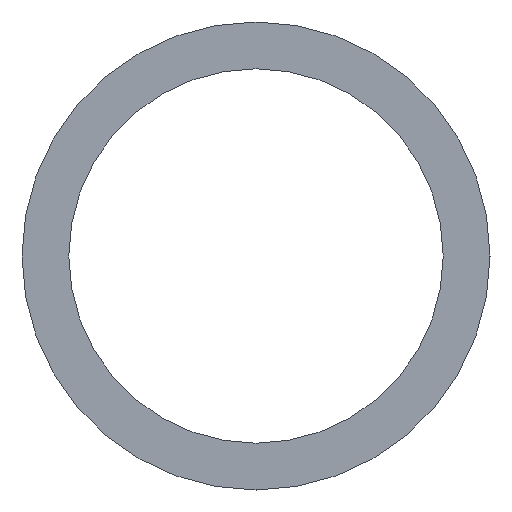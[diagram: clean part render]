
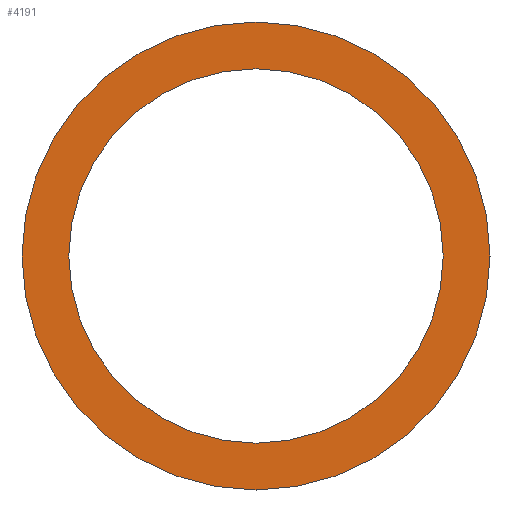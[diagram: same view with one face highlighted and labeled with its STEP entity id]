
A CAD part, front view. The second image highlights one B-rep face of the part: STEP entity #4191.
In plain terms, the highlighted planar face has unit normal (0, -1, 0).
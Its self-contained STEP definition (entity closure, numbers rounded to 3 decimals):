
#58 = DIRECTION ( 'NONE',  ( 0., 1., 0. ) ) ;
#157 = CIRCLE ( 'NONE', #182, 237.5 ) ;
#182 = AXIS2_PLACEMENT_3D ( 'NONE', #1542, #1679, #3466 ) ;
#295 = CARTESIAN_POINT ( 'NONE',  ( 0., -58., 190. ) ) ;
#429 = EDGE_CURVE ( 'NONE', #7664, #7223, #157, .T. ) ;
#890 = DIRECTION ( 'NONE',  ( 0., -1., 0. ) ) ;
#922 = CARTESIAN_POINT ( 'NONE',  ( 0., -58., -190. ) ) ;
#1146 = EDGE_CURVE ( 'NONE', #5183, #6250, #7179, .T. ) ;
#1222 = DIRECTION ( 'NONE',  ( 0., -1., 0. ) ) ;
#1542 = CARTESIAN_POINT ( 'NONE',  ( 0., -58., 0. ) ) ;
#1679 = DIRECTION ( 'NONE',  ( 0., -1., 0. ) ) ;
#1795 = CARTESIAN_POINT ( 'NONE',  ( 0., -58., 190. ) ) ;
#1929 = EDGE_LOOP ( 'NONE', ( #7250, #2063 ) ) ;
#2063 = ORIENTED_EDGE ( 'NONE', *, *, #6827, .T. ) ;
#2110 = DIRECTION ( 'NONE',  ( 0., -1., 0. ) ) ;
#2183 = CIRCLE ( 'NONE', #2776, 190. ) ;
#2734 = AXIS2_PLACEMENT_3D ( 'NONE', #295, #58, #5197 ) ;
#2776 = AXIS2_PLACEMENT_3D ( 'NONE', #6319, #2110, #7044 ) ;
#3401 = EDGE_CURVE ( 'NONE', #6250, #5183, #2183, .T. ) ;
#3466 = DIRECTION ( 'NONE',  ( 0., 0., -1. ) ) ;
#3607 = AXIS2_PLACEMENT_3D ( 'NONE', #3618, #890, #5149 ) ;
#3618 = CARTESIAN_POINT ( 'NONE',  ( 0., -58., 0. ) ) ;
#3972 = EDGE_LOOP ( 'NONE', ( #6203, #7395 ) ) ;
#4191 = ADVANCED_FACE ( 'NONE', ( #4257, #8746 ), #6646, .F. ) ;
#4257 = FACE_BOUND ( 'NONE', #3972, .T. ) ;
#4847 = CARTESIAN_POINT ( 'NONE',  ( 0., -58., -237.5 ) ) ;
#5149 = DIRECTION ( 'NONE',  ( 0., 0., -1. ) ) ;
#5183 = VERTEX_POINT ( 'NONE', #922 ) ;
#5197 = DIRECTION ( 'NONE',  ( 0., 0., 1. ) ) ;
#5376 = DIRECTION ( 'NONE',  ( 0., 0., -1. ) ) ;
#5574 = CIRCLE ( 'NONE', #8972, 237.5 ) ;
#6115 = CARTESIAN_POINT ( 'NONE',  ( 0., -58., 237.5 ) ) ;
#6203 = ORIENTED_EDGE ( 'NONE', *, *, #1146, .F. ) ;
#6250 = VERTEX_POINT ( 'NONE', #1795 ) ;
#6319 = CARTESIAN_POINT ( 'NONE',  ( 0., -58., 0. ) ) ;
#6646 = PLANE ( 'NONE',  #2734 ) ;
#6827 = EDGE_CURVE ( 'NONE', #7223, #7664, #5574, .T. ) ;
#7044 = DIRECTION ( 'NONE',  ( 0., 0., -1. ) ) ;
#7179 = CIRCLE ( 'NONE', #3607, 190. ) ;
#7223 = VERTEX_POINT ( 'NONE', #6115 ) ;
#7250 = ORIENTED_EDGE ( 'NONE', *, *, #429, .T. ) ;
#7395 = ORIENTED_EDGE ( 'NONE', *, *, #3401, .F. ) ;
#7664 = VERTEX_POINT ( 'NONE', #4847 ) ;
#8168 = CARTESIAN_POINT ( 'NONE',  ( 0., -58., 0. ) ) ;
#8746 = FACE_OUTER_BOUND ( 'NONE', #1929, .T. ) ;
#8972 = AXIS2_PLACEMENT_3D ( 'NONE', #8168, #1222, #5376 ) ;
